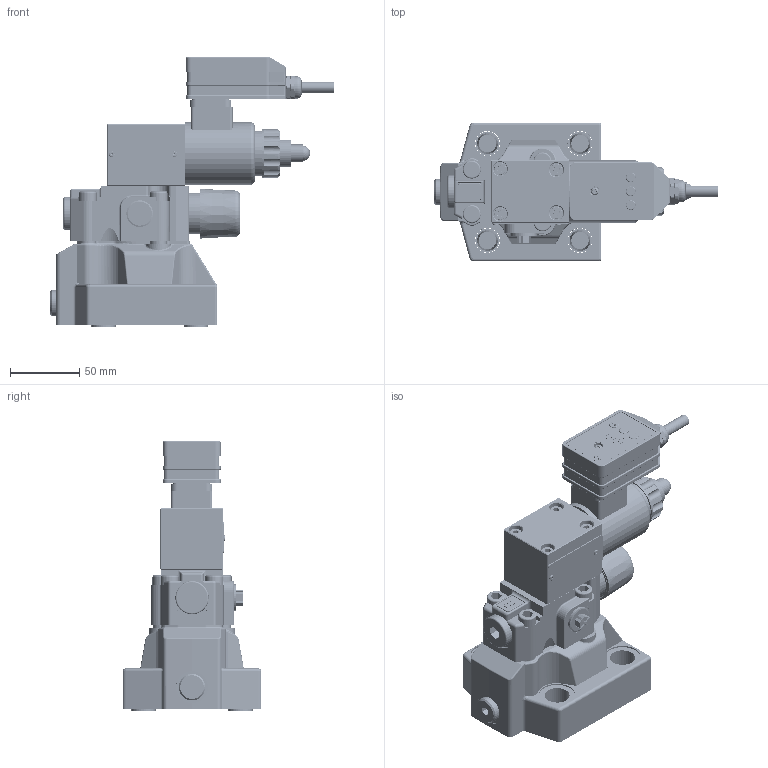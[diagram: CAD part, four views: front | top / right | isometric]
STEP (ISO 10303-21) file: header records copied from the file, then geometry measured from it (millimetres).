
FILE_DESCRIPTION(/* description */ (''),/* implementation_level */ '2;1');
FILE_NAME(/* name */ 'DBEME20.stp',/* time_stamp */ '2023-11-23T14:09:50+08:00',/* author */ (''),/* organization */ (''),/* preprocessor_version */ 'ST-DEVELOPER v16.7',/* originating_system */ 'SIEMENS PLM Software NX 12.0',/* authorisation */ '');
FILE_SCHEMA (('AUTOMOTIVE_DESIGN { 1 0 10303 214 3 1 1 1 }'));
Products named in the file (1): DBEME20
Bounding box: 204.26 x 100 x 195.21 mm (x, y, z)
Volume: 338711.5 mm3; surface area: 276006.7 mm2
Topology: 84 solids, 96 shells, 3546 faces, 9024 edges, 5866 vertices
Faces by surface type: plane 1620, cylinder 1211, cone 249, bspline 189, extrusion 139, torus 122, sphere 14, revolution 2
Full cylindrical faces by diameter (mm): 0.8 x2, 1 x4, 1.5 x5, 1.6 x1, 1.8 x6, 2 x7, 3 x7, 3.3 x22, 3.4 x22, 4 x5, 4.2 x1, 4.3 x48, 4.8 x1, 5 x119, 5.4 x1, 5.5 x3, 5.6 x3, 6 x3, 6.7 x1, 7 x13, 7.49 x1, 7.5 x1, 7.54 x1, 8 x85, 8.3 x1, 8.4 x6, 8.5 x4, 9 x3, 9.5 x1, 10 x16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
Entity records: 250104 total; most frequent: CARTESIAN_POINT 171326, ORIENTED_EDGE 14812, DIRECTION 14199, EDGE_CURVE 7406, AXIS2_PLACEMENT_3D 5155, VERTEX_POINT 5067, EDGE_LOOP 4101, VECTOR 3887
